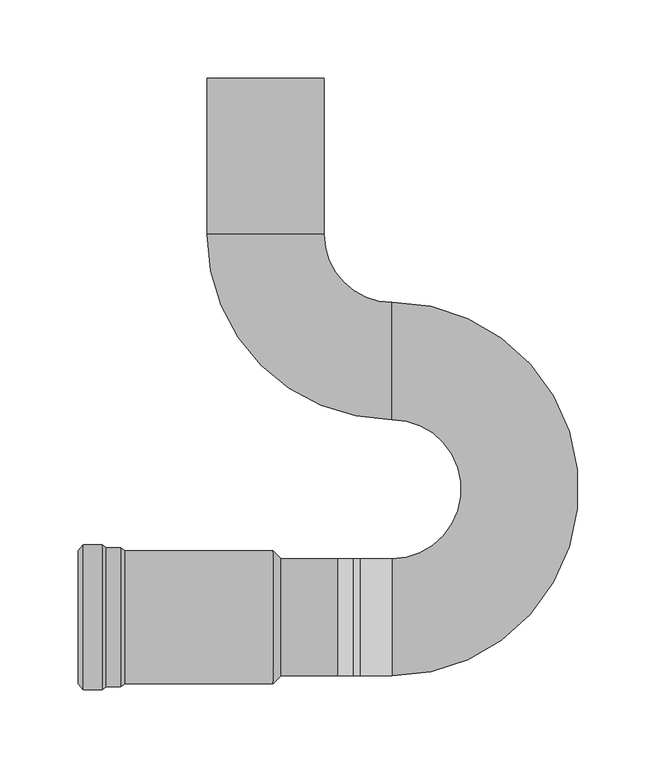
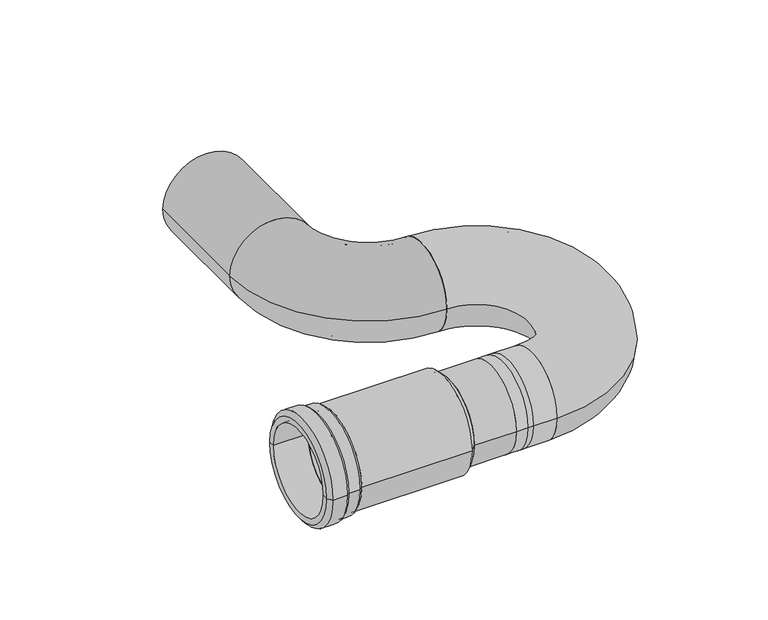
"""IFC4 building model written with IfcOpenShell, lengths in millimetres: pipe fitting geometry, Superdrain Trap with long socket : Superdrain Trap with long socket."""

from ifc_helpers import new_model, si_unit, point, frame, origin, origin_2d, place, context, project, spatial, polyline, circle_curve, ellipse_curve, trimmed, segment, composite_curve, outline, extrude, source, transform, mapped, element, save
from ifc_brep_helpers import plane_surface, cylinder_surface, revolved_surface, advanced_brep


def pipe_fitting_2ccdf74a(model_context):
    return source(origin(), model_context, "Body", "SolidModel", [
        extrude(outline(composite_curve([segment(trimmed(circle_curve(origin_2d(), 37.5), [point((37.5, 0.0))], [point((-37.5, 0.0))], False, "CARTESIAN"), True, "CONTINUOUS"), segment(trimmed(circle_curve(origin_2d(), 37.5), [point((-37.5, 0.0))], [point((37.5, 0.0))], False, "CARTESIAN"), True, "CONTINUOUS")], self_intersect=False), holes=[composite_curve([segment(trimmed(circle_curve(origin_2d(), 34.5), [point((34.5, 0.0))], [point((-34.5, 0.0))], True, "CARTESIAN"), True, "CONTINUOUS"), segment(trimmed(circle_curve(origin_2d(), 34.5), [point((-34.5, 0.0))], [point((34.5, 0.0))], True, "CARTESIAN"), True, "CONTINUOUS")], self_intersect=False)]), frame((10.0, 0.0, 0.0), z_axis=(1.0, 0.0, 0.0), x_axis=(0.0, 1.0, 0.0)), (0.0, 0.0, 1.0), 36.0),
        advanced_brep(
        [(81.0, 37.5, 0.0), (81.0, -37.5, 0.0), (61.0, -37.5, 0.0), (61.0, 37.5, 0.0), (81.0, 34.5, 0.0), (81.0, -34.5, 0.0), (61.0, 34.5, 0.0), (61.0, -34.5, 0.0), (56.0, 34.5, 0.0), (56.0, -34.5, 0.0), (46.0, 34.5, 0.0), (46.0, -34.5, 0.0), (46.0, 37.5, 0.0), (46.0, -37.5, 0.0), (56.0, 37.5, 0.0), (56.0, -37.5, 0.0)],
        [
            (0, 1, circle_curve(frame((81.0, 0.0, 0.0), z_axis=(-1.0, 0.0, 0.0), x_axis=(0.0, -1.0, 0.0)), 37.5)),
            (1, 2),
            (2, 3, circle_curve(frame((61.0, 0.0, 0.0), z_axis=(1.0, 0.0, 0.0), x_axis=(0.0, -1.0, 0.0)), 37.5)),
            (3, 0),
            (1, 0, circle_curve(frame((81.0, 0.0, 0.0), z_axis=(-1.0, 0.0, 0.0), x_axis=(0.0, -1.0, 0.0)), 37.5)),
            (3, 2, circle_curve(frame((61.0, 0.0, 0.0), z_axis=(1.0, 0.0, 0.0), x_axis=(0.0, -1.0, 0.0)), 37.5)),
            (4, 5, circle_curve(frame((81.0, 0.0, 0.0), z_axis=(-1.0, 0.0, 0.0), x_axis=(0.0, -1.0, 0.0)), 34.5)),
            (5, 1),
            (0, 4),
            (5, 4, circle_curve(frame((81.0, 0.0, 0.0), z_axis=(-1.0, 0.0, 0.0), x_axis=(0.0, -1.0, 0.0)), 34.5)),
            (6, 7, circle_curve(frame((61.0, 0.0, 0.0), z_axis=(-1.0, 0.0, 0.0), x_axis=(0.0, -1.0, 0.0)), 34.5)),
            (7, 5),
            (4, 6),
            (7, 6, circle_curve(frame((61.0, 0.0, 0.0), z_axis=(-1.0, 0.0, 0.0), x_axis=(0.0, -1.0, 0.0)), 34.5)),
            (8, 9, circle_curve(frame((56.0, 0.0, 0.0), z_axis=(-1.0, 0.0, 0.0), x_axis=(0.0, -1.0, 0.0)), 34.5)),
            (9, 7),
            (6, 8),
            (9, 8, circle_curve(frame((56.0, 0.0, 0.0), z_axis=(-1.0, 0.0, 0.0), x_axis=(0.0, -1.0, 0.0)), 34.5)),
            (10, 11, circle_curve(frame((46.0, 0.0, 0.0), z_axis=(-1.0, 0.0, 0.0), x_axis=(0.0, -1.0, 0.0)), 34.5)),
            (11, 9),
            (8, 10),
            (11, 10, circle_curve(frame((46.0, 0.0, 0.0), z_axis=(-1.0, 0.0, 0.0), x_axis=(0.0, -1.0, 0.0)), 34.5)),
            (12, 13, circle_curve(frame((46.0, 0.0, 0.0), z_axis=(-1.0, 0.0, 0.0), x_axis=(0.0, -1.0, 0.0)), 37.5)),
            (13, 11),
            (10, 12),
            (13, 12, circle_curve(frame((46.0, 0.0, 0.0), z_axis=(-1.0, 0.0, 0.0), x_axis=(0.0, -1.0, 0.0)), 37.5)),
            (14, 15, circle_curve(frame((56.0, 0.0, 0.0), z_axis=(-1.0, 0.0, 0.0), x_axis=(0.0, -1.0, 0.0)), 37.5)),
            (15, 13),
            (12, 14),
            (15, 14, circle_curve(frame((56.0, 0.0, 0.0), z_axis=(-1.0, 0.0, 0.0), x_axis=(0.0, -1.0, 0.0)), 37.5)),
            (2, 15),
            (14, 3),
        ],
        [
            cylinder_surface(frame((-72.1591502, 0.0, 0.0), z_axis=(1.0, 0.0, 0.0), x_axis=(0.0, -1.0, 0.0)), 37.5),
            plane_surface(frame((81.0, 0.0, 0.0), z_axis=(1.0, 0.0, 0.0), x_axis=(0.0, -1.0, 0.0))),
            revolved_surface(polyline([(81.0, -34.5, 0.0), (61.0, -34.5, 0.0)]), (-72.1591502, 0.0, 0.0), (1.0, 0.0, 0.0)),
            revolved_surface(polyline([(61.0, -34.5, 0.0), (56.0, -34.5, 0.0)]), (-72.1591502, 0.0, 0.0), (1.0, 0.0, 0.0)),
            revolved_surface(polyline([(56.0, -34.5, 0.0), (46.0, -34.5, 0.0)]), (-72.1591502, 0.0, 0.0), (1.0, 0.0, 0.0)),
            plane_surface(frame((46.0, 0.0, 0.0), z_axis=(-1.0, 0.0, 0.0), x_axis=(0.0, -1.0, 0.0))),
        ],
        [
            (0, [[1, 2, 3, 4]]),
            (0, [[5, -4, 6, -2]]),
            (1, [[7, 8, -1, 9]]),
            (1, [[10, -9, -5, -8]]),
            (2, [[11, 12, -7, 13]]),
            (2, [[14, -13, -10, -12]]),
            (3, [[15, 16, -11, 17]]),
            (3, [[18, -17, -14, -16]]),
            (4, [[19, 20, -15, 21]]),
            (4, [[22, -21, -18, -20]]),
            (5, [[23, 24, -19, 25]]),
            (5, [[26, -25, -22, -24]]),
            (0, [[27, 28, -23, 29]]),
            (0, [[30, -29, -26, -28]]),
            (0, [[-3, 31, -27, 32]]),
            (0, [[-6, -32, -30, -31]]),
        ],
    ),
        advanced_brep(
        [(-90.0, -42.5, 0.0), (-90.0, 42.5, 0.0), (5.0, 42.5, 0.0), (5.0, -42.5, 0.0), (-90.0, -37.5, 0.0), (-90.0, 37.5, 0.0), (10.0, -37.5, 0.0), (10.0, 37.5, 0.0)],
        [
            (0, 1, circle_curve(frame((-90.0, 0.0, 0.0), z_axis=(1.0, 0.0, 0.0), x_axis=(0.0, 1.0, 0.0)), 42.5)),
            (1, 2),
            (2, 3, circle_curve(frame((5.0, 0.0, 0.0), z_axis=(-1.0, 0.0, 0.0), x_axis=(0.0, 1.0, 0.0)), 42.5)),
            (3, 0),
            (1, 0, circle_curve(frame((-90.0, 0.0, 0.0), z_axis=(1.0, 0.0, 0.0), x_axis=(0.0, 1.0, 0.0)), 42.5)),
            (3, 2, circle_curve(frame((5.0, 0.0, 0.0), z_axis=(-1.0, 0.0, 0.0), x_axis=(0.0, 1.0, 0.0)), 42.5)),
            (4, 5, circle_curve(frame((-90.0, 0.0, 0.0), z_axis=(1.0, 0.0, 0.0), x_axis=(0.0, 1.0, 0.0)), 37.5)),
            (5, 1),
            (0, 4),
            (5, 4, circle_curve(frame((-90.0, 0.0, 0.0), z_axis=(1.0, 0.0, 0.0), x_axis=(0.0, 1.0, 0.0)), 37.5)),
            (6, 7, circle_curve(frame((10.0, 0.0, 0.0), z_axis=(1.0, 0.0, 0.0), x_axis=(0.0, 1.0, 0.0)), 37.5)),
            (7, 5),
            (4, 6),
            (7, 6, circle_curve(frame((10.0, 0.0, 0.0), z_axis=(1.0, 0.0, 0.0), x_axis=(0.0, 1.0, 0.0)), 37.5)),
            (2, 7),
            (6, 3),
        ],
        [
            cylinder_surface(frame((-103.319266, 0.0, 0.0), z_axis=(-1.0, 0.0, 0.0), x_axis=(0.0, 1.0, 0.0)), 42.5),
            plane_surface(frame((-90.0, 0.0, 0.0), z_axis=(-1.0, 0.0, 0.0), x_axis=(0.0, 1.0, 0.0))),
            revolved_surface(polyline([(-90.0, 37.5, 0.0), (10.0, 37.5, 0.0)]), (-103.319266, 0.0, 0.0), (-1.0, 0.0, 0.0)),
            revolved_surface(polyline([(10.0, 37.5, 0.0), (5.0, 42.5, 0.0)]), (-103.319266, 0.0, 0.0), (-1.0, 0.0, 0.0)),
        ],
        [
            (0, [[1, 2, 3, 4]]),
            (0, [[5, -4, 6, -2]]),
            (1, [[7, 8, -1, 9]]),
            (1, [[10, -9, -5, -8]]),
            (2, [[11, 12, -7, 13]]),
            (2, [[14, -13, -10, -12]]),
            (3, [[-3, 15, -11, 16]]),
            (3, [[-6, -16, -14, -15]]),
        ],
    ),
        advanced_brep(
        [(81.0, -37.5, 0.0), (81.0, 37.5, 0.0), (81.0, -34.5, 0.0), (81.0, 34.5, 0.0), (81.0, 201.5, 0.0), (81.0, 126.5, 0.0), (81.0, 198.5, 0.0), (81.0, 129.5, 0.0)],
        [
            (0, 1, circle_curve(frame((81.0, 0.0, 0.0), z_axis=(-1.0, 0.0, 0.0), x_axis=(0.0, 1.0, 0.0)), 37.5)),
            (1, 0, circle_curve(frame((81.0, 0.0, 0.0), z_axis=(-1.0, 0.0, 0.0), x_axis=(0.0, 1.0, 0.0)), 37.5)),
            (2, 3, circle_curve(frame((81.0, 0.0, 0.0), z_axis=(1.0, 0.0, 0.0), x_axis=(0.0, 1.0, 0.0)), 34.5)),
            (3, 2, circle_curve(frame((81.0, 0.0, 0.0), z_axis=(1.0, 0.0, 0.0), x_axis=(0.0, 1.0, 0.0)), 34.5)),
            (4, 5, circle_curve(frame((81.0, 164.0, 0.0), z_axis=(-1.0, 0.0, 0.0), x_axis=(0.0, -1.0, 0.0)), 37.5)),
            (5, 4, circle_curve(frame((81.0, 164.0, 0.0), z_axis=(-1.0, 0.0, 0.0), x_axis=(0.0, -1.0, 0.0)), 37.5)),
            (6, 7, circle_curve(frame((81.0, 164.0, 0.0), z_axis=(1.0, 0.0, 0.0), x_axis=(0.0, -1.0, 0.0)), 34.5)),
            (7, 6, circle_curve(frame((81.0, 164.0, 0.0), z_axis=(1.0, 0.0, 0.0), x_axis=(0.0, -1.0, 0.0)), 34.5)),
            (5, 1, circle_curve(frame((81.0, 82.0, 0.0), z_axis=(0.0, 0.0, -1.0), x_axis=(0.0, -1.0, 0.0)), 44.5)),
            (0, 4, circle_curve(frame((81.0, 82.0, 0.0), z_axis=(0.0, 0.0, 1.0), x_axis=(0.0, -1.0, 0.0)), 119.5)),
            (7, 3, circle_curve(frame((81.0, 82.0, 0.0), z_axis=(0.0, 0.0, -1.0), x_axis=(0.0, -1.0, 0.0)), 47.5)),
            (2, 6, circle_curve(frame((81.0, 82.0, 0.0), z_axis=(0.0, 0.0, 1.0), x_axis=(0.0, -1.0, 0.0)), 116.5)),
        ],
        [
            plane_surface(frame((81.0, 0.0, 0.0), z_axis=(-1.0, 0.0, 0.0), x_axis=(0.0, 0.0, 1.0))),
            plane_surface(frame((81.0, 164.0, 0.0), z_axis=(-1.0, 0.0, 0.0), x_axis=(0.0, 0.0, 1.0))),
            revolved_surface(trimmed(ellipse_curve(frame((81.0, 0.0, 0.0), z_axis=(-1.0, 0.0, 0.0), x_axis=(0.0, 1.0, 0.0)), 37.5, 37.5), [point((81.0, -37.5, 0.0))], [point((81.0, 37.5, 0.0))], True, "CARTESIAN"), (81.0, 82.0, 0.0), (0.0, 0.0, 1.0)),
            revolved_surface(trimmed(ellipse_curve(frame((81.0, 0.0, 0.0), z_axis=(-1.0, 0.0, 0.0), x_axis=(0.0, 1.0, 0.0)), 37.5, 37.5), [point((81.0, 37.5, 0.0))], [point((81.0, -37.5, 0.0))], True, "CARTESIAN"), (81.0, 82.0, 0.0), (0.0, 0.0, 1.0)),
            revolved_surface(trimmed(ellipse_curve(frame((81.0, 0.0, 0.0), z_axis=(1.0, 0.0, 0.0), x_axis=(0.0, 1.0, 0.0)), 34.5, 34.5), [point((81.0, -34.5, 0.0))], [point((81.0, 34.5, 0.0))], True, "CARTESIAN"), (81.0, 82.0, 0.0), (0.0, 0.0, 1.0)),
            revolved_surface(trimmed(ellipse_curve(frame((81.0, 0.0, 0.0), z_axis=(1.0, 0.0, 0.0), x_axis=(0.0, 1.0, 0.0)), 34.5, 34.5), [point((81.0, 34.5, 0.0))], [point((81.0, -34.5, 0.0))], True, "CARTESIAN"), (81.0, 82.0, 0.0), (0.0, 0.0, 1.0)),
        ],
        [
            (0, [[1, 2], [3, 4]]),
            (1, [[5, 6], [7, 8]]),
            (2, [[9, -1, 10, -6]]),
            (3, [[-10, -2, -9, -5]]),
            (4, [[11, -3, 12, -8]]),
            (5, [[-12, -4, -11, -7]]),
        ],
    ),
        advanced_brep(
        [(-37.5, 245.0, 0.0), (37.5, 245.0, 0.0), (-34.5, 245.0, 0.0), (34.5, 245.0, 0.0), (81.0, 126.5, 0.0), (81.0, 201.5, 0.0), (81.0, 129.5, 0.0), (81.0, 198.5, 0.0)],
        [
            (0, 1, circle_curve(frame((0.0, 245.0, 0.0), z_axis=(0.0, 1.0, 0.0), x_axis=(1.0, 0.0, 0.0)), 37.5)),
            (1, 0, circle_curve(frame((0.0, 245.0, 0.0), z_axis=(0.0, 1.0, 0.0), x_axis=(1.0, 0.0, 0.0)), 37.5)),
            (2, 3, circle_curve(frame((0.0, 245.0, 0.0), z_axis=(0.0, -1.0, 0.0), x_axis=(1.0, 0.0, 0.0)), 34.5)),
            (3, 2, circle_curve(frame((0.0, 245.0, 0.0), z_axis=(0.0, -1.0, 0.0), x_axis=(1.0, 0.0, 0.0)), 34.5)),
            (4, 5, circle_curve(frame((81.0, 164.0, 0.0), z_axis=(1.0, 0.0, 0.0), x_axis=(0.0, 1.0, 0.0)), 37.5)),
            (5, 4, circle_curve(frame((81.0, 164.0, 0.0), z_axis=(1.0, 0.0, 0.0), x_axis=(0.0, 1.0, 0.0)), 37.5)),
            (6, 7, circle_curve(frame((81.0, 164.0, 0.0), z_axis=(-1.0, 0.0, 0.0), x_axis=(0.0, 1.0, 0.0)), 34.5)),
            (7, 6, circle_curve(frame((81.0, 164.0, 0.0), z_axis=(-1.0, 0.0, 0.0), x_axis=(0.0, 1.0, 0.0)), 34.5)),
            (5, 1, circle_curve(frame((81.0, 245.0, 0.0), z_axis=(0.0, 0.0, -1.0), x_axis=(-1.0, 0.0, 0.0)), 43.5)),
            (0, 4, circle_curve(frame((81.0, 245.0, 0.0), z_axis=(0.0, 0.0, 1.0), x_axis=(-1.0, 0.0, 0.0)), 118.5)),
            (7, 3, circle_curve(frame((81.0, 245.0, 0.0), z_axis=(0.0, 0.0, -1.0), x_axis=(-1.0, 0.0, 0.0)), 46.5)),
            (2, 6, circle_curve(frame((81.0, 245.0, 0.0), z_axis=(0.0, 0.0, 1.0), x_axis=(-1.0, 0.0, 0.0)), 115.5)),
        ],
        [
            plane_surface(frame((0.0, 245.0, 0.0), z_axis=(0.0, 1.0, 0.0), x_axis=(0.0, 0.0, 1.0))),
            plane_surface(frame((81.0, 164.0, 0.0), z_axis=(1.0, 0.0, 0.0), x_axis=(0.0, 0.0, 1.0))),
            revolved_surface(trimmed(ellipse_curve(frame((0.0, 245.0, 0.0), z_axis=(0.0, 1.0, 0.0), x_axis=(1.0, 0.0, 0.0)), 37.5, 37.5), [point((-37.5, 245.0, 0.0))], [point((37.5, 245.0, 0.0))], True, "CARTESIAN"), (81.0, 245.0, 0.0), (0.0, 0.0, 1.0)),
            revolved_surface(trimmed(ellipse_curve(frame((0.0, 245.0, 0.0), z_axis=(0.0, 1.0, 0.0), x_axis=(1.0, 0.0, 0.0)), 37.5, 37.5), [point((37.5, 245.0, 0.0))], [point((-37.5, 245.0, 0.0))], True, "CARTESIAN"), (81.0, 245.0, 0.0), (0.0, 0.0, 1.0)),
            revolved_surface(trimmed(ellipse_curve(frame((0.0, 245.0, 0.0), z_axis=(0.0, -1.0, 0.0), x_axis=(1.0, 0.0, 0.0)), 34.5, 34.5), [point((-34.5, 245.0, 0.0))], [point((34.5, 245.0, 0.0))], True, "CARTESIAN"), (81.0, 245.0, 0.0), (0.0, 0.0, 1.0)),
            revolved_surface(trimmed(ellipse_curve(frame((0.0, 245.0, 0.0), z_axis=(0.0, -1.0, 0.0), x_axis=(1.0, 0.0, 0.0)), 34.5, 34.5), [point((34.5, 245.0, 0.0))], [point((-34.5, 245.0, 0.0))], True, "CARTESIAN"), (81.0, 245.0, 0.0), (0.0, 0.0, 1.0)),
        ],
        [
            (0, [[1, 2], [3, 4]]),
            (1, [[5, 6], [7, 8]]),
            (2, [[9, -1, 10, -6]]),
            (3, [[-10, -2, -9, -5]]),
            (4, [[11, -3, 12, -8]]),
            (5, [[-12, -4, -11, -7]]),
        ],
    ),
        advanced_brep(
        [(-101.906565, -44.5, 0.0), (-101.906565, 44.5, 0.0), (-92.646874, 44.5, 0.0), (-92.646874, -44.5, 0.0), (-116.6706809, -46.5, 0.0), (-116.6706809, 46.5, 0.0), (-104.553439, 46.5, 0.0), (-104.553439, -46.5, 0.0), (-120.0, -42.532272, 0.0), (-120.0, 42.532272, 0.0), (-120.0, -37.5, 0.0), (-120.0, 37.5, 0.0), (-90.0, -37.5, 0.0), (-90.0, 37.5, 0.0), (-90.0, -42.5, 0.0), (-90.0, 42.5, 0.0)],
        [
            (0, 1, circle_curve(frame((-101.906565, 0.0, 0.0), z_axis=(1.0, 0.0, 0.0), x_axis=(0.0, 1.0, 0.0)), 44.5)),
            (1, 2),
            (2, 3, circle_curve(frame((-92.646874, 0.0, 0.0), z_axis=(-1.0, 0.0, 0.0), x_axis=(0.0, 1.0, 0.0)), 44.5)),
            (3, 0),
            (1, 0, circle_curve(frame((-101.906565, 0.0, 0.0), z_axis=(1.0, 0.0, 0.0), x_axis=(0.0, 1.0, 0.0)), 44.5)),
            (3, 2, circle_curve(frame((-92.646874, 0.0, 0.0), z_axis=(-1.0, 0.0, 0.0), x_axis=(0.0, 1.0, 0.0)), 44.5)),
            (4, 5, circle_curve(frame((-116.6706809, 0.0, 0.0), z_axis=(1.0, 0.0, 0.0), x_axis=(0.0, 1.0, 0.0)), 46.5)),
            (5, 6),
            (6, 7, circle_curve(frame((-104.553439, 0.0, 0.0), z_axis=(-1.0, 0.0, 0.0), x_axis=(0.0, 1.0, 0.0)), 46.5)),
            (7, 4),
            (5, 4, circle_curve(frame((-116.6706809, 0.0, 0.0), z_axis=(1.0, 0.0, 0.0), x_axis=(0.0, 1.0, 0.0)), 46.5)),
            (7, 6, circle_curve(frame((-104.553439, 0.0, 0.0), z_axis=(-1.0, 0.0, 0.0), x_axis=(0.0, 1.0, 0.0)), 46.5)),
            (8, 9, circle_curve(frame((-120.0, 0.0, 0.0), z_axis=(1.0, 0.0, 0.0), x_axis=(0.0, 1.0, 0.0)), 42.532272)),
            (9, 5),
            (4, 8),
            (9, 8, circle_curve(frame((-120.0, 0.0, 0.0), z_axis=(1.0, 0.0, 0.0), x_axis=(0.0, 1.0, 0.0)), 42.532272)),
            (10, 11, circle_curve(frame((-120.0, 0.0, 0.0), z_axis=(1.0, 0.0, 0.0), x_axis=(0.0, 1.0, 0.0)), 37.5)),
            (11, 9),
            (8, 10),
            (11, 10, circle_curve(frame((-120.0, 0.0, 0.0), z_axis=(1.0, 0.0, 0.0), x_axis=(0.0, 1.0, 0.0)), 37.5)),
            (12, 13, circle_curve(frame((-90.0, 0.0, 0.0), z_axis=(1.0, 0.0, 0.0), x_axis=(0.0, 1.0, 0.0)), 37.5)),
            (13, 11),
            (10, 12),
            (13, 12, circle_curve(frame((-90.0, 0.0, 0.0), z_axis=(1.0, 0.0, 0.0), x_axis=(0.0, 1.0, 0.0)), 37.5)),
            (14, 15, circle_curve(frame((-90.0, 0.0, 0.0), z_axis=(1.0, 0.0, 0.0), x_axis=(0.0, 1.0, 0.0)), 42.5)),
            (15, 13),
            (12, 14),
            (15, 14, circle_curve(frame((-90.0, 0.0, 0.0), z_axis=(1.0, 0.0, 0.0), x_axis=(0.0, 1.0, 0.0)), 42.5)),
            (2, 15),
            (14, 3),
            (6, 1),
            (0, 7),
        ],
        [
            cylinder_surface(frame((-232.691787, 0.0, 0.0), z_axis=(-1.0, 0.0, 0.0), x_axis=(0.0, 1.0, 0.0)), 44.5),
            cylinder_surface(frame((-232.691787, 0.0, 0.0), z_axis=(-1.0, 0.0, 0.0), x_axis=(0.0, 1.0, 0.0)), 46.5),
            revolved_surface(polyline([(-116.6706809, 46.5, 0.0), (-120.0, 42.532272, 0.0)]), (-232.691787, 0.0, 0.0), (-1.0, 0.0, 0.0)),
            plane_surface(frame((-120.0, 0.0, 0.0), z_axis=(-1.0, 0.0, 0.0), x_axis=(0.0, 1.0, 0.0))),
            revolved_surface(polyline([(-120.0, 37.5, 0.0), (-90.0, 37.5, 0.0)]), (-232.691787, 0.0, 0.0), (-1.0, 0.0, 0.0)),
            plane_surface(frame((-90.0, 0.0, 0.0), z_axis=(1.0, 0.0, 0.0), x_axis=(0.0, 1.0, 0.0))),
            revolved_surface(polyline([(-90.0, 42.5, 0.0), (-92.646874, 44.5, 0.0)]), (-232.691787, 0.0, 0.0), (-1.0, 0.0, 0.0)),
            revolved_surface(polyline([(-101.906565, 44.5, 0.0), (-104.553439, 46.5, 0.0)]), (-232.691787, 0.0, 0.0), (-1.0, 0.0, 0.0)),
        ],
        [
            (0, [[1, 2, 3, 4]]),
            (0, [[5, -4, 6, -2]]),
            (1, [[7, 8, 9, 10]]),
            (1, [[11, -10, 12, -8]]),
            (2, [[13, 14, -7, 15]]),
            (2, [[16, -15, -11, -14]]),
            (3, [[17, 18, -13, 19]]),
            (3, [[20, -19, -16, -18]]),
            (4, [[21, 22, -17, 23]]),
            (4, [[24, -23, -20, -22]]),
            (5, [[25, 26, -21, 27]]),
            (5, [[28, -27, -24, -26]]),
            (6, [[-3, 29, -25, 30]]),
            (6, [[-6, -30, -28, -29]]),
            (7, [[-9, 31, -1, 32]]),
            (7, [[-12, -32, -5, -31]]),
        ],
    ),
        extrude(outline(composite_curve([segment(trimmed(circle_curve(origin_2d(), 37.5), [point((0.0, 37.5))], [point((0.0, -37.5))], False, "CARTESIAN"), True, "CONTINUOUS"), segment(trimmed(circle_curve(origin_2d(), 37.5), [point((0.0, -37.5))], [point((0.0, 37.5))], False, "CARTESIAN"), True, "CONTINUOUS")], self_intersect=False), holes=[composite_curve([segment(trimmed(circle_curve(origin_2d(), 34.5), [point((0.0, 34.5))], [point((0.0, -34.5))], True, "CARTESIAN"), True, "CONTINUOUS"), segment(trimmed(circle_curve(origin_2d(), 34.5), [point((0.0, -34.5))], [point((0.0, 34.5))], True, "CARTESIAN"), True, "CONTINUOUS")], self_intersect=False)]), frame((0.0, 245.0, 0.0), z_axis=(0.0, 1.0, 0.0), x_axis=(0.0, 0.0, 1.0)), (0.0, 0.0, 1.0), 100.0),
    ])


if __name__ == "__main__":
    model = new_model("IFC4")
    model_context = context("Model", 3, world=origin())
    ifc_project = project(units=[si_unit("LENGTHUNIT", "METRE", prefix="MILLI")], contexts=[model_context])
    site = spatial("IfcSite", under=ifc_project)
    building = spatial("IfcBuilding", under=site)
    placement = place(None, origin())
    pipe_fitting_shape = pipe_fitting_2ccdf74a(model_context)
    element("IfcPipeFitting", 1, ObjectType="Superdrain Trap with long socket : Superdrain Trap with long socket", at=placement, inside=building, context=model_context, shape_type="MappedRepresentation", body=[
        mapped(pipe_fitting_shape, transform((0.0, 0.0, 0.0), x_axis=(1.0, 0.0, 0.0), y_axis=(0.0, 1.0, 0.0), z_axis=(0.0, 0.0, 1.0))),
    ])
    save(model, "model.ifc")
